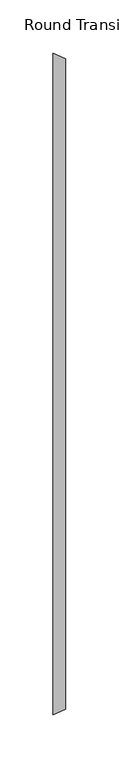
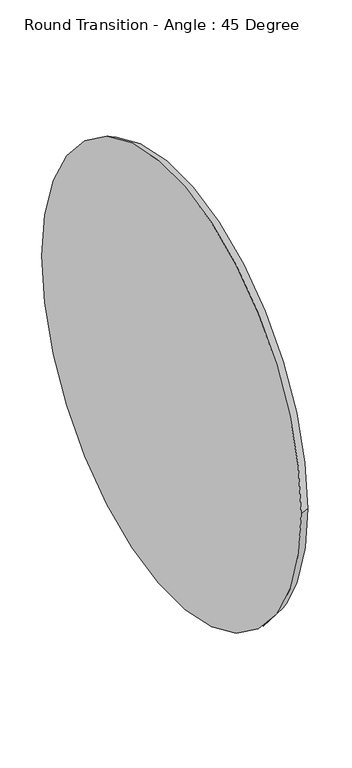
"""IFC4 building model written with IfcOpenShell, lengths in millimetres: duct fitting geometry, Round Transition - Angle : 45 Degree."""

from ifc_helpers import new_model, si_unit, frame, origin, place, context, project, spatial, polyline, circle_curve, source, transform, mapped, element, save
from ifc_brep_helpers import plane_surface, revolved_surface, advanced_brep


def round_transition_angle_45_degree_63b79cef(model_context):
    return source(origin(), model_context, "Body", "AdvancedBrep", [
        advanced_brep(
        [(11.4976921, -304.8, 0.0), (11.4976921, 304.8, 0.0), (0.0, -309.5625, 0.0), (0.0, 309.5625, 0.0)],
        [
            (0, 1, circle_curve(frame((11.4976921, 0.0, 0.0), z_axis=(1.0, 0.0, 1.2479016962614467e-12), x_axis=(0.0, -1.0, 0.0)), 304.8)),
            (1, 0, circle_curve(frame((11.4976921, 0.0, 0.0), z_axis=(1.0, 0.0, 1.2479016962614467e-12), x_axis=(0.0, 1.0, 0.0)), 304.8)),
            (2, 3, circle_curve(frame((0.0, 0.0, 0.0), z_axis=(-1.0, 0.0, -1.2479016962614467e-12), x_axis=(0.0, 1.0, 0.0)), 309.5625)),
            (3, 2, circle_curve(frame((0.0, 0.0, 0.0), z_axis=(-1.0, 0.0, -1.2479016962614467e-12), x_axis=(0.0, -1.0, 0.0)), 309.5625)),
            (3, 1),
            (0, 2),
        ],
        [
            plane_surface(frame((11.4976921, 0.0, 0.0), z_axis=(1.0, 0.0, 0.0), x_axis=(0.0, 0.0, -1.0))),
            plane_surface(frame((0.0, 0.0, 0.0), z_axis=(-1.0, 0.0, 0.0), x_axis=(0.0, 0.0, -1.0))),
            revolved_surface(polyline([(11.497692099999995, -304.7999999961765, 0.0), (0.0, -309.5625, 0.0)]), (747.3499859, 0.0, 0.0), (-1.0, 0.0, -1.2479016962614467e-12)),
            revolved_surface(polyline([(11.497692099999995, 304.7999999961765, 0.0), (0.0, 309.5625, 0.0)]), (747.3499859, 0.0, 0.0), (-1.0, 0.0, -1.2479016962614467e-12)),
        ],
        [
            (0, [[1, 2]]),
            (1, [[3, 4]]),
            (2, [[-4, 5, -1, 6]]),
            (3, [[-3, -6, -2, -5]]),
        ],
    ),
    ])


if __name__ == "__main__":
    model = new_model("IFC4")
    model_context = context("Model", 3, world=origin())
    ifc_project = project(units=[si_unit("LENGTHUNIT", "METRE", prefix="MILLI")], contexts=[model_context])
    site = spatial("IfcSite", under=ifc_project)
    building = spatial("IfcBuilding", under=site)
    placement = place(None, origin())
    round_transition_angle_45_degree_shape = round_transition_angle_45_degree_63b79cef(model_context)
    element("IfcDuctFitting", 1, ObjectType="Round Transition - Angle : 45 Degree", at=placement, inside=building, context=model_context, shape_type="MappedRepresentation", body=[
        mapped(round_transition_angle_45_degree_shape, transform((0.0, 0.0, 0.0), x_axis=(1.0, 0.0, 0.0), y_axis=(0.0, 1.0, 0.0), z_axis=(0.0, 0.0, 1.0))),
    ])
    save(model, "model.ifc")
